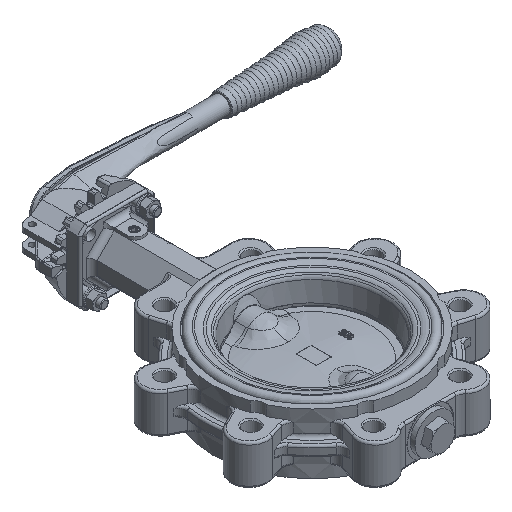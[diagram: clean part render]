
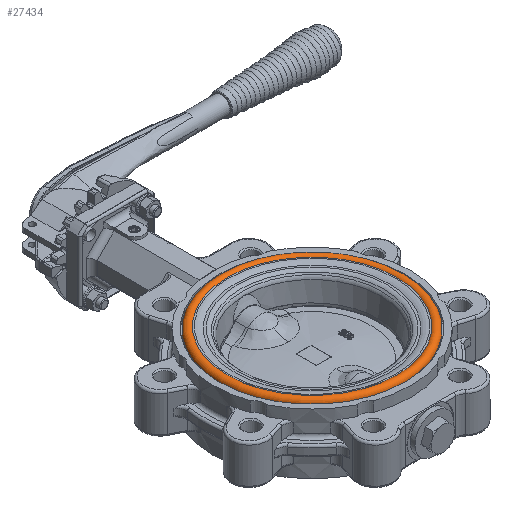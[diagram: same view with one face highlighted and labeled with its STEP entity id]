
A CAD part, isometric view. The second image highlights one B-rep face of the part: STEP entity #27434.
In plain terms, the highlighted toroidal (fillet/blend) face has major radius 81.505 mm and minor radius 4 mm.
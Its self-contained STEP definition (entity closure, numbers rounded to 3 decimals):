
#27227=CARTESIAN_POINT('',(-85.5,0.,26.945));
#27228=VERTEX_POINT('',#27227);
#27229=CARTESIAN_POINT('',(0.,0.,26.945));
#27230=DIRECTION('',(0.0,0.0,-1.0));
#27231=DIRECTION('',(-1.0,0.0,0.0));
#27232=AXIS2_PLACEMENT_3D('',#27229,#27230,#27231);
#27233=CIRCLE('',#27232,85.5);
#27234=EDGE_CURVE('',#27228,#27228,#27233,.T.);
#27408=CARTESIAN_POINT('',(-78.6,0.,29.5));
#27409=VERTEX_POINT('',#27408);
#27410=CARTESIAN_POINT('',(0.,0.,29.5));
#27411=DIRECTION('',(0.0,0.0,-1.0));
#27412=DIRECTION('',(-1.0,0.0,0.0));
#27413=AXIS2_PLACEMENT_3D('',#27410,#27411,#27412);
#27414=CIRCLE('',#27413,78.6);
#27415=EDGE_CURVE('',#27409,#27409,#27414,.T.);
#27423=CARTESIAN_POINT('',(0.,0.,26.75));
#27424=DIRECTION('',(0.0,0.0,-1.0));
#27425=DIRECTION('',(-1.0,0.0,0.0));
#27426=AXIS2_PLACEMENT_3D('',#27423,#27424,#27425);
#27427=TOROIDAL_SURFACE('',#27426,81.505,4.);
#27428=ORIENTED_EDGE('',*,*,#27234,.F.);
#27429=EDGE_LOOP('',(#27428));
#27430=FACE_OUTER_BOUND('',#27429,.T.);
#27431=ORIENTED_EDGE('',*,*,#27415,.T.);
#27432=EDGE_LOOP('',(#27431));
#27433=FACE_BOUND('',#27432,.T.);
#27434=ADVANCED_FACE('',(#27430,#27433),#27427,.T.);
